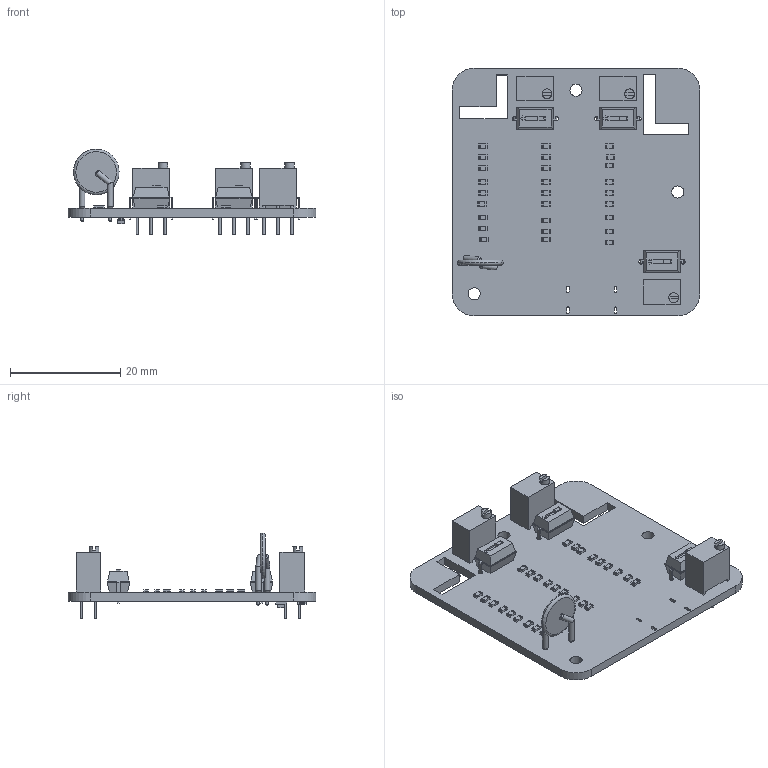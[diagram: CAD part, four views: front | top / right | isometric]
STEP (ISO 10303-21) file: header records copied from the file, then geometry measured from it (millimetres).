
FILE_DESCRIPTION(('KiCad electronic assembly'),'2;1');
FILE_NAME('ledcube.step','2026-07-24T20:13:32',('Pcbnew'),('Kicad'), 'Open CASCADE STEP processor 7.9','KiCad to STEP converter','Unknown' );
FILE_SCHEMA(('AUTOMOTIVE_DESIGN { 1 0 10303 214 1 1 1 1 }'));
Length unit declared in the file: millimetre
Products named in the file (12): ledcube 1; R_0603_1608Metric; Potentiometer_Bourns_3266W_Vertical; SW_DIP_SPSTx01_Slide_6.7x4.1mm_W7.62mm_P2.54mm_LowProfile; SW_DIP_SPSTx01_Slide_67x41mm_W762mm_P254mm_LowProfile; Fuse_BelFuse_0ZRE_0ZRE0005FF_L8.3mm_W3.8mm; A_0ZRE0005FF; LED_0805_2012Metric; ledD76C_PCB
Assembly tree (42 placements, depth 3):
  ledcube 1
    R_0603_1608Metric  x28
      R_0603_1608Metric
    Potentiometer_Bourns_3266W_Vertical  x3
      Potentiometer_Bourns_3266W_Vertical
    SW_DIP_SPSTx01_Slide_6.7x4.1mm_W7.62mm_P2.54mm_LowProfile  x3
      SW_DIP_SPSTx01_Slide_67x41mm_W762mm_P254mm_LowProfile
    Fuse_BelFuse_0ZRE_0ZRE0005FF_L8.3mm_W3.8mm
      A_0ZRE0005FF
    LED_0805_2012Metric
      LED_0805_2012Metric
    ledD76C_PCB
Bounding box: 45 x 45 x 15.58 mm (x, y, z)
Volume: 4051.7 mm3; surface area: 5817.5 mm2
Topology: 37 solids, 37 shells, 1106 faces, 2872 edges, 1849 vertices
Faces by surface type: plane 748, cylinder 302, bspline 48, torus 6, revolution 2
Full cylindrical faces by diameter (mm): 0.46 x9, 0.51 x2, 0.71 x2, 0.8 x15, 1.02 x2, 1.78 x3, 2.2 x3, 8.3 x1
Entity records: 9419 total; most frequent: CARTESIAN_POINT 1635, DIRECTION 1299, ORIENTED_EDGE 1260, EDGE_CURVE 630, LINE 443, VECTOR 443, AXIS2_PLACEMENT_3D 427, VERTEX_POINT 410
